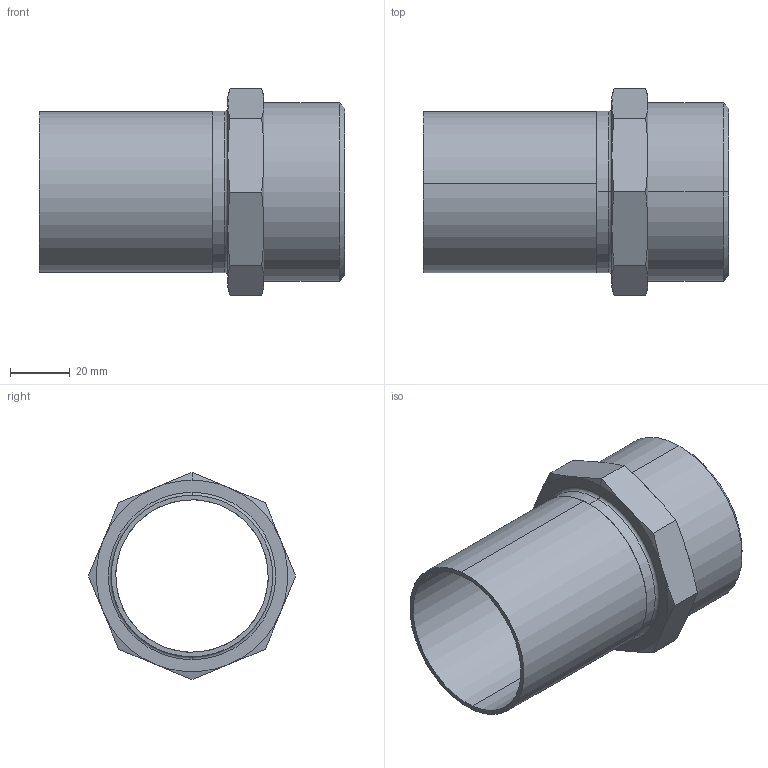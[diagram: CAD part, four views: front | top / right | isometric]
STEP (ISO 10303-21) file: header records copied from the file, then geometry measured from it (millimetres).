
FILE_DESCRIPTION (( 'STEP AP203' ), '1' );
FILE_NAME ('GDA6377.STEP', '2019-07-03T06:25:43', ( '' ), ( '' ), 'SwSTEP 2.0', 'SolidWorks 2015', '' );
FILE_SCHEMA (( 'CONFIG_CONTROL_DESIGN' ));
Length unit declared in the file: millimetre
Products named in the file (3): GDA6377; 眻奪54(酗57); OD54｡ﾁ2
Assembly tree (2 placements, depth 2):
  GDA6377
    OD54｡ﾁ2
    眻奪54(酗57)
Bounding box: 102 x 69.27 x 69.27 mm (x, y, z)
Volume: 48612.4 mm3; surface area: 37532.8 mm2
Topology: 2 solids, 2 shells, 50 faces, 106 edges, 62 vertices
Faces by surface type: cone 22, plane 14, cylinder 12, torus 2
Entity records: 1739 total; most frequent: CARTESIAN_POINT 383, DIRECTION 232, ORIENTED_EDGE 212, EDGE_CURVE 106, AXIS2_PLACEMENT_3D 103, VERTEX_POINT 62, EDGE_LOOP 56, ADVANCED_FACE 50
